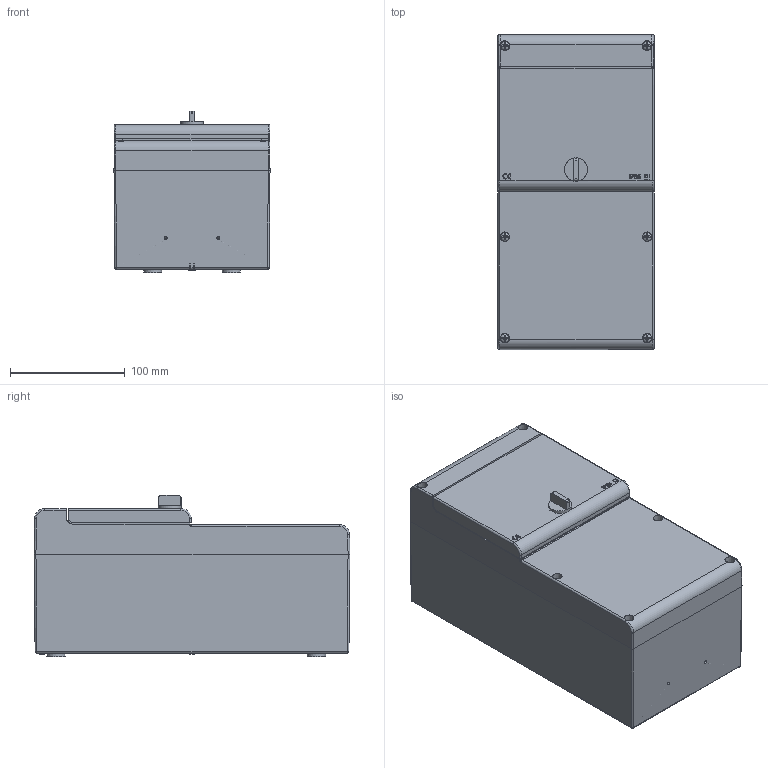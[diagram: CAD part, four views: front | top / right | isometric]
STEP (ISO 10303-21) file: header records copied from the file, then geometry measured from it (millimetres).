
FILE_DESCRIPTION(/* description */ (''),/* implementation_level */ '2;1');
FILE_NAME(/* name */ '4004335.stp',/* time_stamp */ '2019-11-05T08:34:49+01:00',/* author */ (''),/* organization */ (''),/* preprocessor_version */ 'ST-DEVELOPER v16.7',/* originating_system */ 'SIEMENS PLM Software NX 1888',/* authorisation */ '');
FILE_SCHEMA (('AUTOMOTIVE_DESIGN { 1 0 10303 214 3 1 1 1 }'));
Products named in the file (1): BSOM86E48CE1ho1g
Bounding box: 136 x 275 x 140.5 mm (x, y, z)
Volume: 608787.3 mm3; surface area: 480060.5 mm2
Topology: 10 solids, 10 shells, 1807 faces, 4652 edges, 3012 vertices
Faces by surface type: plane 973, cylinder 367, cone 214, torus 90, bspline 88, extrusion 59, sphere 13, revolution 3
Full cylindrical faces by diameter (mm): 2 x2, 2.8 x14, 3.2 x16, 3.3 x2, 3.6 x2, 4 x6, 7.6 x6, 14.2 x4, 20 x1, 20.5 x2, 23.5 x1
Entity records: 61007 total; most frequent: CARTESIAN_POINT 17989, ORIENTED_EDGE 8914, DIRECTION 8726, EDGE_CURVE 4457, AXIS2_PLACEMENT_3D 3184, VERTEX_POINT 2956, VECTOR 2355, LINE 2296
